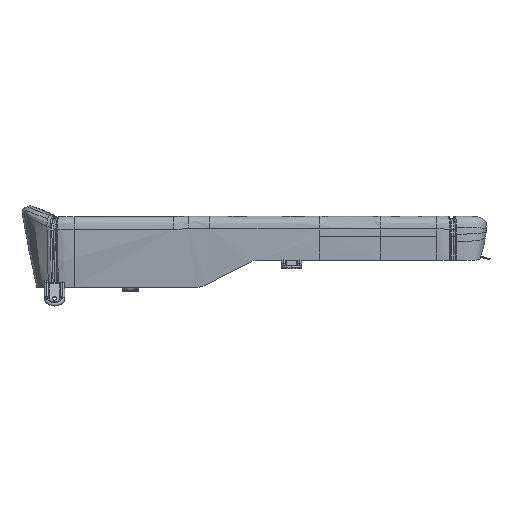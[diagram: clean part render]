
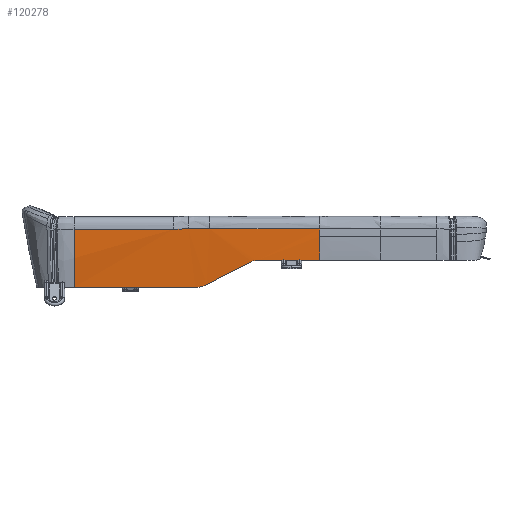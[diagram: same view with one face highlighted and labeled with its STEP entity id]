
A CAD part, left-side view. The second image highlights one B-rep face of the part: STEP entity #120278.
In plain terms, the highlighted free-form (B-spline) face has degree [1, 5] with [2, 6] control points.
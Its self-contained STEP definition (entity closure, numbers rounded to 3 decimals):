
#96897=CARTESIAN_POINT('Vertex',(81.255,98.408,-287.087)) ;
#96900=CARTESIAN_POINT('Line Origine',(81.255,174.907,-287.087)) ;
#96904=CARTESIAN_POINT('Vertex',(81.255,251.406,-287.087)) ;
#96968=CARTESIAN_POINT('Vertex',(77.611,98.407,-228.44)) ;
#96972=CARTESIAN_POINT('Control Point',(77.611,98.407,-228.44)) ;
#96973=CARTESIAN_POINT('Control Point',(78.038,98.407,-248.017)) ;
#96974=CARTESIAN_POINT('Control Point',(79.257,98.408,-267.582)) ;
#96975=CARTESIAN_POINT('Control Point',(81.255,98.408,-287.087)) ;
#109297=CARTESIAN_POINT('Control Point',(81.602,265.199,-290.401)) ;
#109298=CARTESIAN_POINT('Control Point',(81.428,262.004,-288.771)) ;
#109299=CARTESIAN_POINT('Control Point',(81.313,258.557,-287.648)) ;
#109300=CARTESIAN_POINT('Control Point',(81.255,254.981,-287.087)) ;
#109301=CARTESIAN_POINT('Control Point',(81.255,251.406,-287.087)) ;
#109302=CARTESIAN_POINT('Vertex',(81.602,265.199,-290.401)) ;
#120169=CARTESIAN_POINT('Control Point',(77.443,45.722,-210.003)) ;
#120170=CARTESIAN_POINT('Control Point',(77.34,45.722,-238.898)) ;
#120171=CARTESIAN_POINT('Control Point',(78.673,45.722,-267.796)) ;
#120172=CARTESIAN_POINT('Control Point',(81.442,45.722,-296.697)) ;
#120173=CARTESIAN_POINT('Control Point',(85.647,45.722,-325.602)) ;
#120174=CARTESIAN_POINT('Control Point',(91.29,45.722,-354.512)) ;
#120175=CARTESIAN_POINT('Control Point',(77.443,700.963,-210.003)) ;
#120176=CARTESIAN_POINT('Control Point',(77.34,700.963,-238.898)) ;
#120177=CARTESIAN_POINT('Control Point',(78.673,700.963,-267.796)) ;
#120178=CARTESIAN_POINT('Control Point',(81.442,700.963,-296.697)) ;
#120179=CARTESIAN_POINT('Control Point',(85.647,700.963,-325.602)) ;
#120180=CARTESIAN_POINT('Control Point',(91.29,700.963,-354.512)) ;
#120182=CARTESIAN_POINT('Control Point',(77.442,98.407,-210.29)) ;
#120183=CARTESIAN_POINT('Control Point',(77.442,152.37,-210.29)) ;
#120184=CARTESIAN_POINT('Control Point',(77.442,206.333,-210.29)) ;
#120185=CARTESIAN_POINT('Control Point',(77.442,260.296,-210.29)) ;
#120186=CARTESIAN_POINT('Control Point',(77.442,314.259,-210.29)) ;
#120187=CARTESIAN_POINT('Control Point',(77.442,368.222,-210.29)) ;
#120188=CARTESIAN_POINT('Vertex',(77.442,368.222,-210.29)) ;
#120190=CARTESIAN_POINT('Vertex',(77.442,98.407,-210.29)) ;
#120194=CARTESIAN_POINT('Control Point',(77.443,420.545,-210.12)) ;
#120195=CARTESIAN_POINT('Control Point',(77.443,410.08,-210.004)) ;
#120196=CARTESIAN_POINT('Control Point',(77.443,399.615,-210.056)) ;
#120197=CARTESIAN_POINT('Control Point',(77.442,389.151,-210.29)) ;
#120198=CARTESIAN_POINT('Control Point',(77.442,378.687,-210.29)) ;
#120199=CARTESIAN_POINT('Control Point',(77.442,368.222,-210.29)) ;
#120200=CARTESIAN_POINT('Vertex',(77.443,420.545,-210.12)) ;
#120204=CARTESIAN_POINT('Control Point',(77.442,455.9,-210.522)) ;
#120205=CARTESIAN_POINT('Control Point',(77.442,448.828,-210.522)) ;
#120206=CARTESIAN_POINT('Control Point',(77.442,441.757,-210.522)) ;
#120207=CARTESIAN_POINT('Control Point',(77.442,434.686,-210.352)) ;
#120208=CARTESIAN_POINT('Control Point',(77.443,427.616,-210.198)) ;
#120209=CARTESIAN_POINT('Control Point',(77.443,420.545,-210.12)) ;
#120210=CARTESIAN_POINT('Vertex',(77.442,455.9,-210.522)) ;
#120214=CARTESIAN_POINT('Control Point',(77.442,455.9,-210.522)) ;
#120215=CARTESIAN_POINT('Control Point',(77.442,504.912,-210.522)) ;
#120216=CARTESIAN_POINT('Control Point',(77.442,553.925,-210.522)) ;
#120217=CARTESIAN_POINT('Control Point',(77.442,602.938,-210.522)) ;
#120218=CARTESIAN_POINT('Control Point',(77.442,651.95,-210.522)) ;
#120219=CARTESIAN_POINT('Control Point',(77.442,700.963,-210.522)) ;
#120220=CARTESIAN_POINT('Vertex',(77.442,700.962,-210.522)) ;
#120224=CARTESIAN_POINT('Control Point',(77.442,700.962,-210.522)) ;
#120225=CARTESIAN_POINT('Control Point',(77.36,700.61,-239.178)) ;
#120226=CARTESIAN_POINT('Control Point',(78.689,700.472,-267.842)) ;
#120227=CARTESIAN_POINT('Control Point',(81.438,700.447,-296.502)) ;
#120228=CARTESIAN_POINT('Control Point',(85.579,700.529,-325.035)) ;
#120229=CARTESIAN_POINT('Control Point',(91.081,700.678,-353.442)) ;
#120230=CARTESIAN_POINT('Vertex',(91.081,700.678,-353.442)) ;
#120234=CARTESIAN_POINT('Control Point',(91.081,403.492,-353.442)) ;
#120235=CARTESIAN_POINT('Control Point',(91.081,462.929,-353.442)) ;
#120236=CARTESIAN_POINT('Control Point',(91.081,522.366,-353.442)) ;
#120237=CARTESIAN_POINT('Control Point',(91.081,581.803,-353.442)) ;
#120238=CARTESIAN_POINT('Control Point',(91.081,641.241,-353.442)) ;
#120239=CARTESIAN_POINT('Control Point',(91.081,700.678,-353.442)) ;
#120240=CARTESIAN_POINT('Vertex',(91.081,403.492,-353.442)) ;
#120244=CARTESIAN_POINT('Control Point',(91.081,403.492,-353.442)) ;
#120245=CARTESIAN_POINT('Control Point',(91.081,396.311,-353.442)) ;
#120246=CARTESIAN_POINT('Control Point',(90.862,389.13,-352.309)) ;
#120247=CARTESIAN_POINT('Control Point',(90.425,382.213,-350.052)) ;
#120248=CARTESIAN_POINT('Control Point',(89.822,375.797,-346.784)) ;
#120249=CARTESIAN_POINT('Vertex',(89.822,375.797,-346.784)) ;
#120253=CARTESIAN_POINT('Control Point',(89.822,375.797,-346.784)) ;
#120254=CARTESIAN_POINT('Control Point',(86.357,338.935,-328.008)) ;
#120255=CARTESIAN_POINT('Control Point',(83.616,302.067,-309.213)) ;
#120256=CARTESIAN_POINT('Control Point',(81.602,265.199,-290.401)) ;
#120259=CARTESIAN_POINT('Control Point',(77.611,98.407,-228.44)) ;
#120260=CARTESIAN_POINT('Control Point',(77.479,98.407,-222.39)) ;
#120261=CARTESIAN_POINT('Control Point',(77.423,98.407,-216.34)) ;
#120262=CARTESIAN_POINT('Control Point',(77.442,98.407,-210.29)) ;
#96901=DIRECTION('Vector Direction',(0.,-1.,0.)) ;
#96902=VECTOR('Line Direction',#96901,1.) ;
#120265=ORIENTED_EDGE('',*,*,#120192,.F.) ;
#120266=ORIENTED_EDGE('',*,*,#120202,.T.) ;
#120267=ORIENTED_EDGE('',*,*,#120212,.F.) ;
#120268=ORIENTED_EDGE('',*,*,#120222,.F.) ;
#120269=ORIENTED_EDGE('',*,*,#120232,.T.) ;
#120270=ORIENTED_EDGE('',*,*,#120242,.T.) ;
#120271=ORIENTED_EDGE('',*,*,#120251,.T.) ;
#120272=ORIENTED_EDGE('',*,*,#120257,.T.) ;
#120273=ORIENTED_EDGE('',*,*,#109304,.T.) ;
#120274=ORIENTED_EDGE('',*,*,#96906,.T.) ;
#120275=ORIENTED_EDGE('',*,*,#96976,.T.) ;
#120276=ORIENTED_EDGE('',*,*,#120263,.T.) ;
#120278=ADVANCED_FACE('\X2\5927575057AB\X0\',(#120277),#120168,.T.) ;
#96971=B_SPLINE_CURVE_WITH_KNOTS('',3,(#96972,#96973,#96974,#96975),.UNSPECIFIED.,.F.,.U.,(4,4),(0.,83.154),.UNSPECIFIED.) ;
#109296=B_SPLINE_CURVE_WITH_KNOTS('',4,(#109297,#109298,#109299,#109300,#109301),.UNSPECIFIED.,.F.,.U.,(5,5),(0.,20.32),.UNSPECIFIED.) ;
#120181=B_SPLINE_CURVE_WITH_KNOTS('',5,(#120182,#120183,#120184,#120185,#120186,#120187),.UNSPECIFIED.,.F.,.U.,(6,6),(100.538,370.353),.UNSPECIFIED.) ;
#120193=B_SPLINE_CURVE_WITH_KNOTS('',5,(#120194,#120195,#120196,#120197,#120198,#120199),.UNSPECIFIED.,.F.,.U.,(6,6),(0.,73.997),.UNSPECIFIED.) ;
#120203=B_SPLINE_CURVE_WITH_KNOTS('',5,(#120204,#120205,#120206,#120207,#120208,#120209),.UNSPECIFIED.,.F.,.U.,(6,6),(0.,50.005),.UNSPECIFIED.) ;
#120213=B_SPLINE_CURVE_WITH_KNOTS('',5,(#120214,#120215,#120216,#120217,#120218,#120219),.UNSPECIFIED.,.F.,.U.,(6,6),(458.031,703.094),.UNSPECIFIED.) ;
#120223=B_SPLINE_CURVE_WITH_KNOTS('',5,(#120224,#120225,#120226,#120227,#120228,#120229),.UNSPECIFIED.,.F.,.U.,(6,6),(0.,203.467),.UNSPECIFIED.) ;
#120233=B_SPLINE_CURVE_WITH_KNOTS('',5,(#120234,#120235,#120236,#120237,#120238,#120239),.UNSPECIFIED.,.F.,.U.,(6,6),(405.623,702.809),.UNSPECIFIED.) ;
#120243=B_SPLINE_CURVE_WITH_KNOTS('',4,(#120244,#120245,#120246,#120247,#120248),.UNSPECIFIED.,.F.,.U.,(5,5),(0.,40.822),.UNSPECIFIED.) ;
#120252=B_SPLINE_CURVE_WITH_KNOTS('',3,(#120253,#120254,#120255,#120256),.UNSPECIFIED.,.F.,.U.,(4,4),(0.,175.886),.UNSPECIFIED.) ;
#120258=B_SPLINE_CURVE_WITH_KNOTS('',3,(#120259,#120260,#120261,#120262),.UNSPECIFIED.,.F.,.U.,(4,4),(179.55,205.311),.UNSPECIFIED.) ;
#120168=B_SPLINE_SURFACE_WITH_KNOTS('',1,5,((#120169,#120170,#120171,#120172,#120173,#120174),(#120175,#120176,#120177,#120178,#120179,#120180)),.UNSPECIFIED.,.F.,.F.,.U.,(2,2),(6,6),(47.853,703.094),(-3.206,142.316),.UNSPECIFIED.) ;
#96906=EDGE_CURVE('',#96905,#96898,#96903,.T.) ;
#96976=EDGE_CURVE('',#96898,#96969,#96971,.F.) ;
#109304=EDGE_CURVE('',#109303,#96905,#109296,.T.) ;
#120192=EDGE_CURVE('',#120189,#120191,#120181,.F.) ;
#120202=EDGE_CURVE('',#120189,#120201,#120193,.F.) ;
#120212=EDGE_CURVE('',#120211,#120201,#120203,.T.) ;
#120222=EDGE_CURVE('',#120221,#120211,#120213,.F.) ;
#120232=EDGE_CURVE('',#120221,#120231,#120223,.T.) ;
#120242=EDGE_CURVE('',#120231,#120241,#120233,.F.) ;
#120251=EDGE_CURVE('',#120241,#120250,#120243,.T.) ;
#120257=EDGE_CURVE('',#120250,#109303,#120252,.T.) ;
#120263=EDGE_CURVE('',#96969,#120191,#120258,.T.) ;
#120264=EDGE_LOOP('',(#120265,#120266,#120267,#120268,#120269,#120270,#120271,#120272,#120273,#120274,#120275,#120276)) ;
#120277=FACE_OUTER_BOUND('',#120264,.T.) ;
#96903=LINE('Line',#96900,#96902) ;
#96898=VERTEX_POINT('',#96897) ;
#96905=VERTEX_POINT('',#96904) ;
#96969=VERTEX_POINT('',#96968) ;
#109303=VERTEX_POINT('',#109302) ;
#120189=VERTEX_POINT('',#120188) ;
#120191=VERTEX_POINT('',#120190) ;
#120201=VERTEX_POINT('',#120200) ;
#120211=VERTEX_POINT('',#120210) ;
#120221=VERTEX_POINT('',#120220) ;
#120231=VERTEX_POINT('',#120230) ;
#120241=VERTEX_POINT('',#120240) ;
#120250=VERTEX_POINT('',#120249) ;
